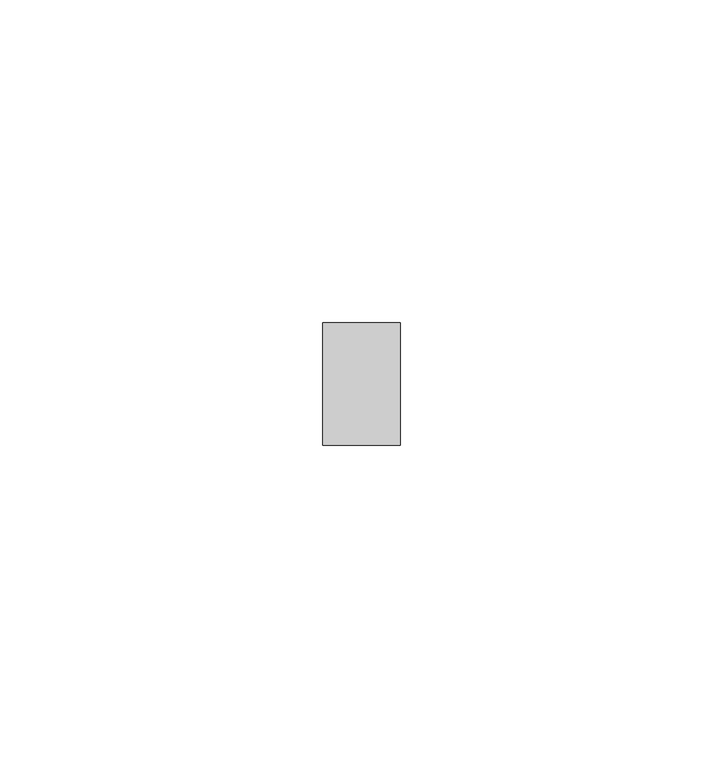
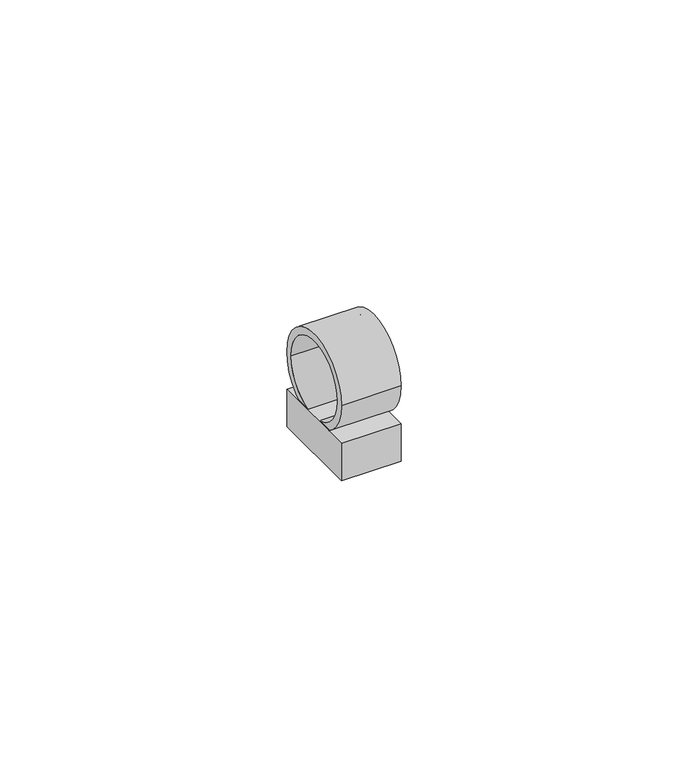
"""IFC4 building model written with IfcOpenShell, lengths in millimetres: cable carrier fitting geometry, Крепеж-клипса_для_труб_с_фиксатором : Крепеж-клипса для трубы D16мм с фиксатором."""

from ifc_helpers import new_model, si_unit, point, frame, origin, origin_2d, place, context, project, spatial, polyline, circle_curve, trimmed, segment, composite_curve, outline, extrude, source, transform, mapped, element, save


def cable_carrier_fitting_b32524ae(model_context):
    return source(origin(), model_context, "Body", "SweptSolid", [
        extrude(outline(polyline([(6.0, 9.5), (6.0, -9.5), (-6.0, -9.5), (-6.0, 9.5), (6.0, 9.5)])), frame((0.0, 0.0, -16.0), z_axis=(0.0, 0.0, 1.0), x_axis=(1.0, 0.0, 0.0)), (0.0, 0.0, 1.0), 8.0),
        extrude(outline(composite_curve([segment(trimmed(circle_curve(origin_2d(), 9.5), [point((-9.5, 0.0))], [point((9.5, 0.0))], False, "CARTESIAN"), True, "CONTINUOUS"), segment(trimmed(circle_curve(origin_2d(), 9.5), [point((9.5, 0.0))], [point((-9.5, 0.0))], False, "CARTESIAN"), True, "CONTINUOUS")], self_intersect=False), holes=[composite_curve([segment(trimmed(circle_curve(origin_2d(), 8.0), [point((-8.0, 0.0))], [point((8.0, 0.0))], True, "CARTESIAN"), True, "CONTINUOUS"), segment(trimmed(circle_curve(origin_2d(), 8.0), [point((8.0, 0.0))], [point((-8.0, 0.0))], True, "CARTESIAN"), True, "CONTINUOUS")], self_intersect=False)]), frame((-6.0, 0.0, 0.0), z_axis=(1.0, 0.0, 0.0), x_axis=(0.0, 1.0, 0.0)), (0.0, 0.0, 1.0), 12.0),
    ])


if __name__ == "__main__":
    model = new_model("IFC4")
    model_context = context("Model", 3, world=origin())
    ifc_project = project(units=[si_unit("LENGTHUNIT", "METRE", prefix="MILLI")], contexts=[model_context])
    site = spatial("IfcSite", under=ifc_project)
    building = spatial("IfcBuilding", under=site)
    placement = place(None, origin())
    cable_carrier_fitting_shape = cable_carrier_fitting_b32524ae(model_context)
    element("IfcCableCarrierFitting", 1, ObjectType="Крепеж-клипса_для_труб_с_фиксатором : Крепеж-клипса для трубы D16мм с фиксатором", at=placement, inside=building, context=model_context, shape_type="MappedRepresentation", body=[
        mapped(cable_carrier_fitting_shape, transform((0.0, 0.0, 0.0), x_axis=(1.0, 0.0, 0.0), y_axis=(0.0, 1.0, 0.0), z_axis=(0.0, 0.0, 1.0))),
    ])
    save(model, "model.ifc")
